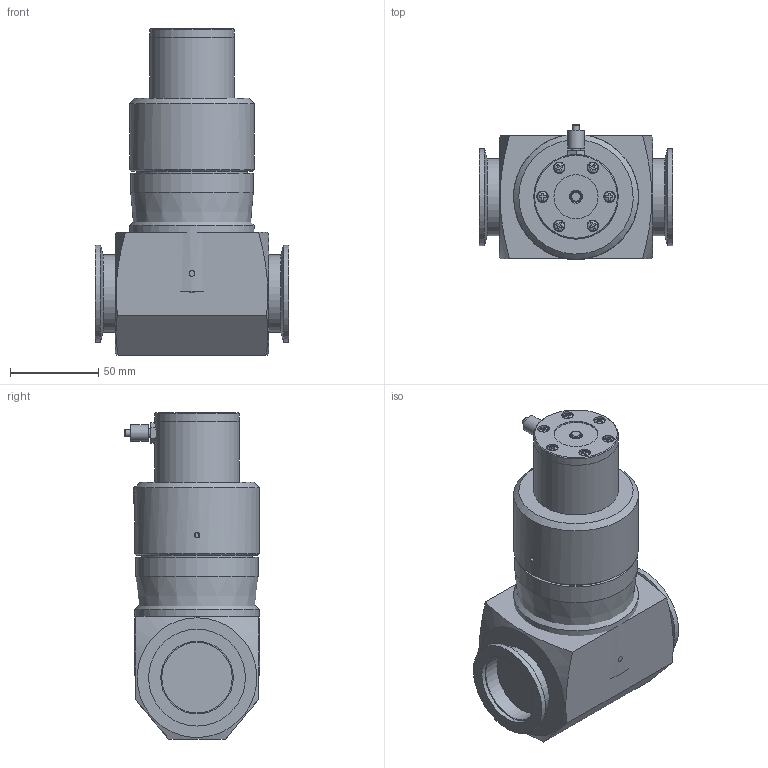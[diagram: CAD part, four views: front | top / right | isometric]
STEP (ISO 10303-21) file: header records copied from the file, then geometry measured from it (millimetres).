
FILE_DESCRIPTION( ( 'Unknown' ), '1' );
FILE_NAME( 'X:/Daten ( aktueller Bestand )/Projekte und Zeichnungen/Solid Edge/21 Eck + Durchgangsventile KF ISO-K, el.pneumatisch/Alu/Durchgangsventil/NW40/Internet/312611.stp', 'Unknown', ( 'Unknown' ), ( 'Unknown' ), 'XStep 1.0', 'Unknown', ' ' );
FILE_SCHEMA( ( 'automotive_design' ) );
Length unit declared in the file: millimetre
Products named in the file (10): Assem1; 3102-2; 3102-3; 3102-4; 3102-5; Anschluss Festo; Schraube 3x8; M3x4; 3026-2; 3006-1
Bounding box: 110 x 76.7 x 185.5 mm (x, y, z)
Volume: 1545698.4 mm3; surface area: 194893.5 mm2
Topology: 24 solids, 24 shells, 429 faces, 951 edges, 633 vertices
Faces by surface type: plane 239, cylinder 127, cone 56, sphere 7
Full cylindrical faces by diameter (mm): 2 x2, 2.459 x12, 2.8 x2, 3 x10, 3.242 x4, 3.3 x12, 4 x2, 4.134 x4, 5 x4, 5.793 x7, 6 x4, 6.3 x2, 6.5 x12, 9.518 x2, 10 x2, 10.5 x2, 12 x2, 12.5 x2, 16.913 x2, 20 x2, 25 x2, 26 x2, 33.739 x2, 37.97 x2, 40 x4, 41.2 x4, 44 x4, 48 x4, 52.563 x2, 55 x4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
Entity records: 4749 total; most frequent: CARTESIAN_POINT 1213, DIRECTION 694, ORIENTED_EDGE 446, AXIS2_PLACEMENT_3D 314, EDGE_LOOP 301, EDGE_CURVE 223, FACE_OUTER_BOUND 221, VERTEX_POINT 199
